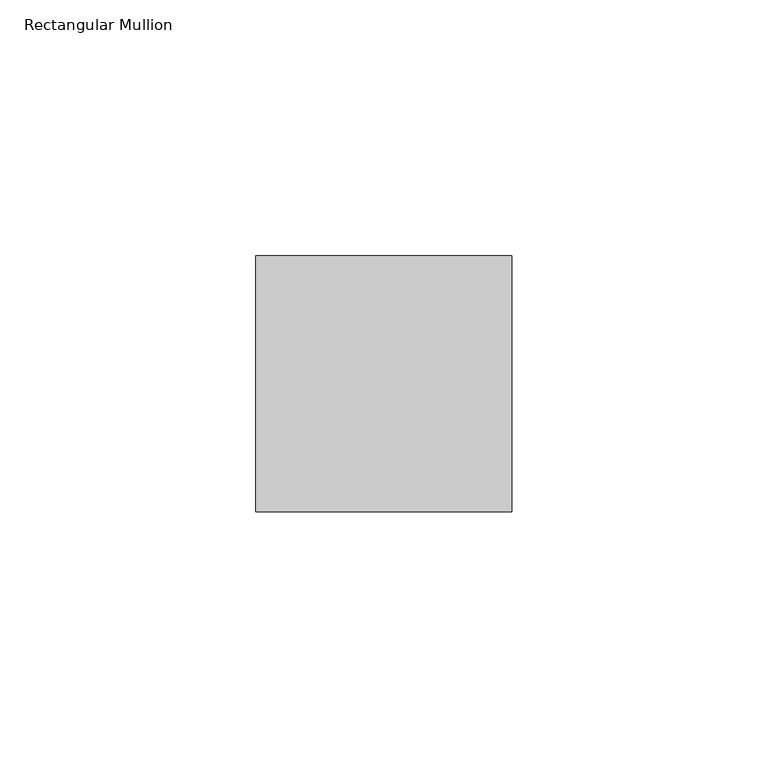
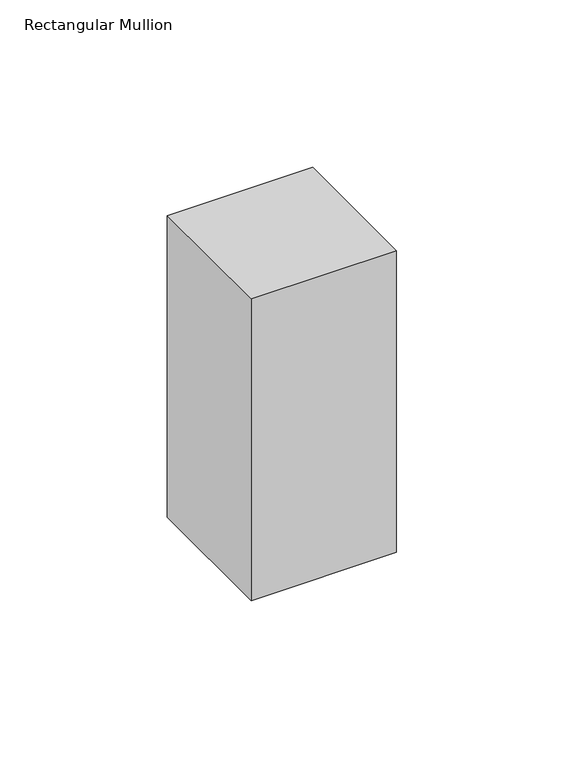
"""IFC4 building model written with IfcOpenShell, lengths in millimetres: member geometry, Rectangular Mullion : RSen_21_CWM_support profile 50x50_gen_duco projects."""

from ifc_helpers import new_model, si_unit, frame, origin, place, context, project, spatial, polyline, outline, extrude, source, transform, mapped, element, save


def rectangular_mullion_5aa39df7(model_context):
    return source(origin(), model_context, "Body", "SweptSolid", [
        extrude(outline(polyline([(25.0, 1.0), (25.0, -49.0), (-25.0, -49.0), (-25.0, 1.0), (25.0, 1.0)])), frame((0.0, 0.0, -110.0), z_axis=(0.0, 0.0, 1.0), x_axis=(1.0, 0.0, 0.0)), (0.0, 0.0, 1.0), 110.0),
    ])


if __name__ == "__main__":
    model = new_model("IFC4")
    model_context = context("Model", 3, world=origin())
    ifc_project = project(units=[si_unit("LENGTHUNIT", "METRE", prefix="MILLI")], contexts=[model_context])
    site = spatial("IfcSite", under=ifc_project)
    building = spatial("IfcBuilding", under=site)
    placement = place(None, origin())
    rectangular_mullion_shape = rectangular_mullion_5aa39df7(model_context)
    element("IfcMember", 1, ObjectType="Rectangular Mullion : RSen_21_CWM_support profile 50x50_gen_duco projects", at=placement, inside=building, context=model_context, shape_type="MappedRepresentation", body=[
        mapped(rectangular_mullion_shape, transform((0.0, 0.0, 0.0), x_axis=(1.0, 0.0, 0.0), y_axis=(0.0, 1.0, 0.0), z_axis=(0.0, 0.0, 1.0))),
    ])
    save(model, "model.ifc")
